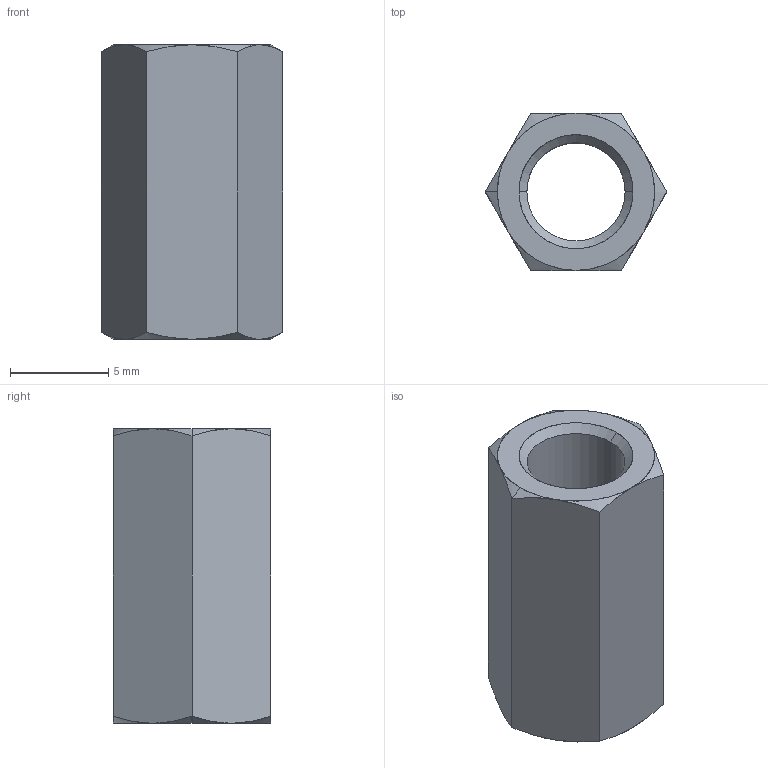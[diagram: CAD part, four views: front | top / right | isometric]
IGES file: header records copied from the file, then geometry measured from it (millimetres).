
Start section: SolidWorks IGES file using analytic representation for surfaces
Global section: file name: C:\Users\ianosborn\Desktop\N0503.NP_v2\N0503.NP_v2_20250227_IGES\N0503.050-015-NP.igs; native system: SolidWorks 2019; preprocessor: SolidWorks 2019; author: IanOsborn; date: 250227.144415; units: millimetre
Bounding box: 9.24 x 8 x 15 mm (x, y, z)
Surface area: 710.8 mm2 (no closed solid volume)
Topology: 0 solids, 0 shells, 28 faces, 286 edges, 286 vertices
Faces by surface type: revolution 20, bspline 8
